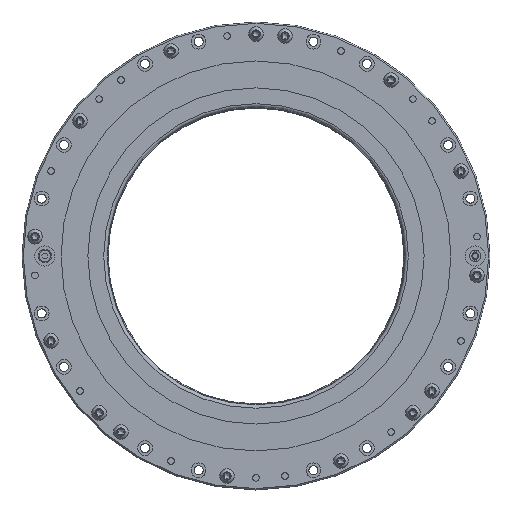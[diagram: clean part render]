
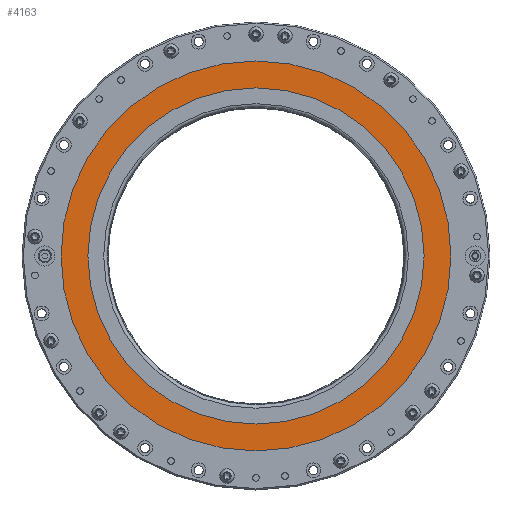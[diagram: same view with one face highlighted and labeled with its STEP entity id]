
A CAD part, top view. The second image highlights one B-rep face of the part: STEP entity #4163.
In plain terms, the highlighted planar face has unit normal (0, 0, 1) as drawn and (0, 0, -1) by its records, which use the part's own axes.
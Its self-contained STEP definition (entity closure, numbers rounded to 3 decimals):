
#247=PLANE('',#6221);
#449=CIRCLE('',#6222,125.);
#450=CIRCLE('',#6223,145.);
#1273=ORIENTED_EDGE('',*,*,#2013,.T.);
#1274=ORIENTED_EDGE('',*,*,#2014,.F.);
#2013=EDGE_CURVE('',#2459,#2459,#449,.T.);
#2014=EDGE_CURVE('',#2460,#2460,#450,.T.);
#2459=VERTEX_POINT('',#9189);
#2460=VERTEX_POINT('',#9191);
#3095=EDGE_LOOP('',(#1273));
#3096=EDGE_LOOP('',(#1274));
#3641=FACE_BOUND('',#3095,.T.);
#3642=FACE_BOUND('',#3096,.T.);
#4163=ADVANCED_FACE('',(#3641,#3642),#247,.F.);
#6221=AXIS2_PLACEMENT_3D('',#9187,#7119,#7120);
#6222=AXIS2_PLACEMENT_3D('',#9188,#7121,#7122);
#6223=AXIS2_PLACEMENT_3D('',#9190,#7123,#7124);
#7119=DIRECTION('',(0.,0.,1.));
#7120=DIRECTION('',(1.,0.,0.));
#7121=DIRECTION('',(0.,0.,1.));
#7122=DIRECTION('',(1.,0.,0.));
#7123=DIRECTION('',(0.,0.,1.));
#7124=DIRECTION('',(1.,0.,0.));
#9187=CARTESIAN_POINT('',(125.,0.,-9.5));
#9188=CARTESIAN_POINT('',(0.,0.,-9.5));
#9189=CARTESIAN_POINT('',(125.,0.,-9.5));
#9190=CARTESIAN_POINT('',(0.,0.,-9.5));
#9191=CARTESIAN_POINT('',(145.,0.,-9.5));
